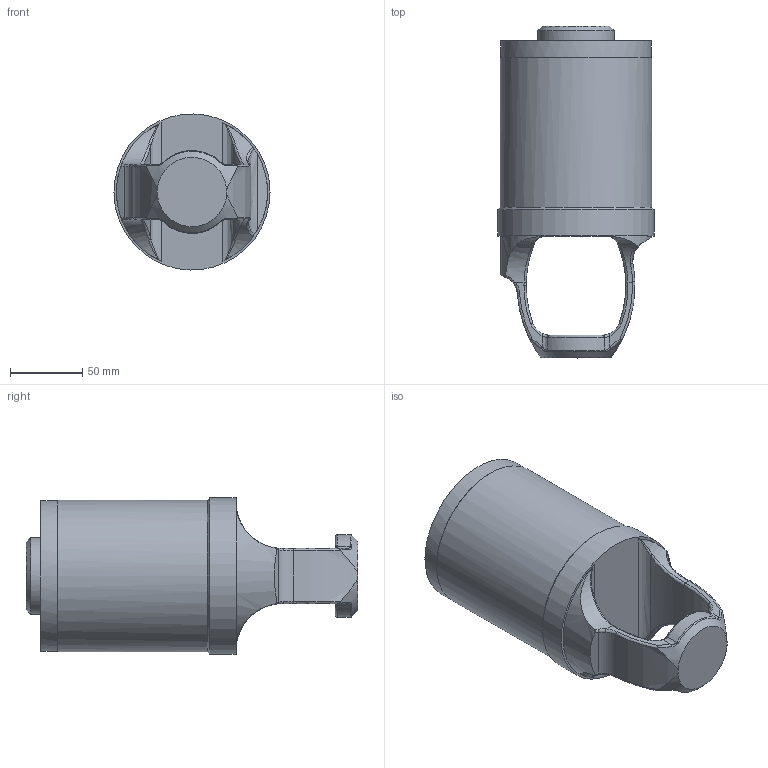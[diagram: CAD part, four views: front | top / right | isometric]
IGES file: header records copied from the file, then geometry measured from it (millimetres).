
Global section: file name: W60 4 IN ACTUATOR; native system: Autodesk Inventor 2020; preprocessor: unknown; date: 20210423.112847; units: inch
Bounding box: 107.75 x 229.06 x 107.72 mm (x, y, z)
Volume: 1297939 mm3; surface area: 83398.5 mm2
Topology: 1 solids, 1 shells, 95 faces, 238 edges, 147 vertices
Faces by surface type: bspline 95
